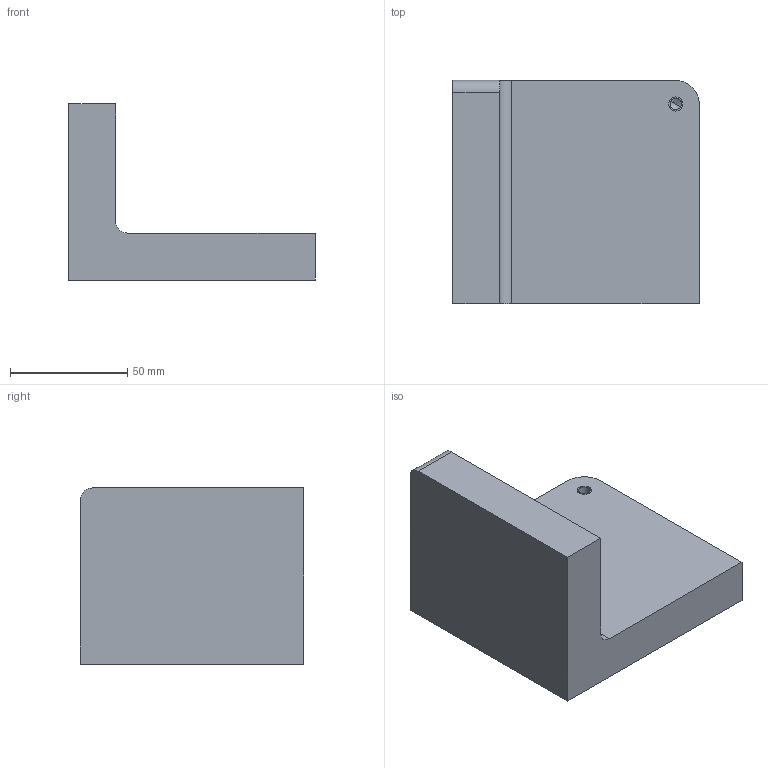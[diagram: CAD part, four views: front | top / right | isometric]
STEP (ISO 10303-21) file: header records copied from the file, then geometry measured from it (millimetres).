
FILE_DESCRIPTION(('CATIA V5 STEP Exchange'),'2;1');
FILE_NAME('C:\_Andres\UNIVERSIDAD\IQS\ASIGNATURAS\DAO\EXF\EXF-16172c\2inicio\Bosch_Dalmau_Ej01_v5.stp','2017-03-05T15:11:04+00:00',('none'),('none'),'CATIA Version 5-6 Release 2014 SP1 HF18','CATIA V5 STEP AP203','none');
FILE_SCHEMA(('CONFIG_CONTROL_DESIGN'));
Length unit declared in the file: millimetre
Products named in the file (1): Bosch_Dalmau_Ej01_v5
Bounding box: 105 x 95 x 75 mm (x, y, z)
Volume: 303660.4 mm3; surface area: 40700.7 mm2
Topology: 1 solids, 2 shells, 17 faces, 43 edges, 27 vertices
Faces by surface type: plane 8, cylinder 7, cone 2
Entity records: 513 total; most frequent: CARTESIAN_POINT 83, ORIENTED_EDGE 78, DIRECTION 69, EDGE_CURVE 41, AXIS2_PLACEMENT_3D 29, VECTOR 27, LINE 27, VERTEX_POINT 27
